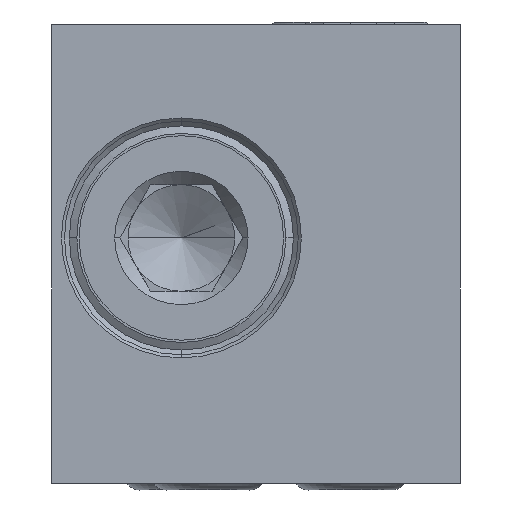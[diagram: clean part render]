
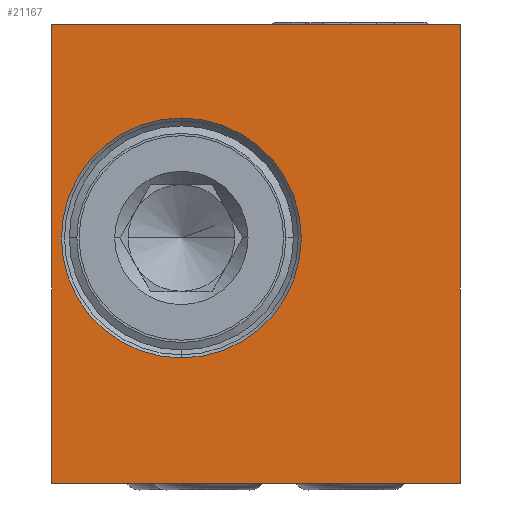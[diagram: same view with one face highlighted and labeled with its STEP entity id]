
A CAD part, left-side view. The second image highlights one B-rep face of the part: STEP entity #21167.
In plain terms, the highlighted planar face has unit normal (-1, 0, 0).
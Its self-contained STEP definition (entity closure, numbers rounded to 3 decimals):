
#3873=DIRECTION('',(0.,0.,1.));
#3874=VECTOR('',#3873,25.8);
#3875=CARTESIAN_POINT('',(-38.,11.5,-12.9));
#3876=LINE('',#3875,#3874);
#3877=DIRECTION('',(0.,-1.,0.));
#3878=VECTOR('',#3877,23.);
#3879=CARTESIAN_POINT('',(-38.,11.5,12.9));
#3880=LINE('',#3879,#3878);
#3881=DIRECTION('',(0.,0.,-1.));
#3882=VECTOR('',#3881,25.8);
#3883=CARTESIAN_POINT('',(-38.,-11.5,12.9));
#3884=LINE('',#3883,#3882);
#3885=DIRECTION('',(0.,1.,0.));
#3886=VECTOR('',#3885,23.);
#3887=CARTESIAN_POINT('',(-38.,-11.5,-12.9));
#3888=LINE('',#3887,#3886);
#3889=CARTESIAN_POINT('',(-38.,4.2,0.9));
#3890=DIRECTION('',(-1.,0.,0.));
#3891=DIRECTION('',(0.,0.,-1.));
#3892=AXIS2_PLACEMENT_3D('',#3889,#3890,#3891);
#3894=CARTESIAN_POINT('',(-38.,4.2,0.9));
#3895=DIRECTION('',(-1.,0.,0.));
#3896=DIRECTION('',(0.,0.,1.));
#3897=AXIS2_PLACEMENT_3D('',#3894,#3895,#3896);
#14527=CARTESIAN_POINT('',(-38.,11.5,12.9));
#14528=VERTEX_POINT('',#14527);
#14529=CARTESIAN_POINT('',(-38.,11.5,-12.9));
#14530=VERTEX_POINT('',#14529);
#14531=CARTESIAN_POINT('',(-38.,-11.5,12.9));
#14532=VERTEX_POINT('',#14531);
#14553=CARTESIAN_POINT('',(-38.,-11.5,-12.9));
#14554=VERTEX_POINT('',#14553);
#14599=CARTESIAN_POINT('',(-38.,4.2,-5.85));
#14600=CARTESIAN_POINT('',(-38.,4.2,7.65));
#14601=VERTEX_POINT('',#14599);
#14602=VERTEX_POINT('',#14600);
#21148=CARTESIAN_POINT('',(-38.,0.,0.));
#21149=DIRECTION('',(-1.,0.,0.));
#21150=DIRECTION('',(0.,-1.,0.));
#21151=AXIS2_PLACEMENT_3D('',#21148,#21149,#21150);
#21152=PLANE('',#21151);
#21153=ORIENTED_EDGE('',*,*,#21141,.T.);
#21154=ORIENTED_EDGE('',*,*,#19025,.T.);
#21156=ORIENTED_EDGE('',*,*,#21155,.T.);
#21158=ORIENTED_EDGE('',*,*,#21157,.T.);
#21159=EDGE_LOOP('',(#21153,#21154,#21156,#21158));
#21160=FACE_OUTER_BOUND('',#21159,.F.);
#21162=ORIENTED_EDGE('',*,*,#21161,.T.);
#21164=ORIENTED_EDGE('',*,*,#21163,.T.);
#21165=EDGE_LOOP('',(#21162,#21164));
#21166=FACE_BOUND('',#21165,.F.);
#21167=ADVANCED_FACE('',(#21160,#21166),#21152,.T.);
#3893=CIRCLE('',#3892,6.75);
#3898=CIRCLE('',#3897,6.75);
#19025=EDGE_CURVE('',#14528,#14532,#3880,.T.);
#21141=EDGE_CURVE('',#14530,#14528,#3876,.T.);
#21155=EDGE_CURVE('',#14532,#14554,#3884,.T.);
#21157=EDGE_CURVE('',#14554,#14530,#3888,.T.);
#21161=EDGE_CURVE('',#14601,#14602,#3893,.T.);
#21163=EDGE_CURVE('',#14602,#14601,#3898,.T.);
